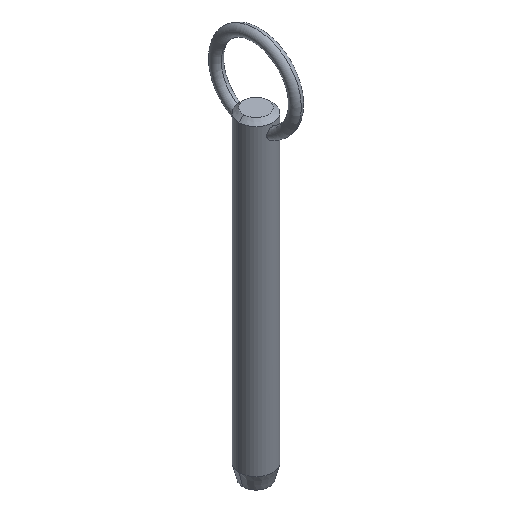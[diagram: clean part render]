
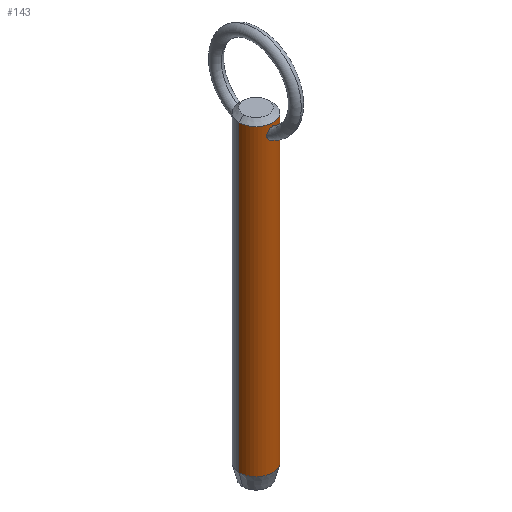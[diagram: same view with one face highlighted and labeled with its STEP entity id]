
A CAD part, isometric view. The second image highlights one B-rep face of the part: STEP entity #143.
In plain terms, the highlighted cylindrical face has radius 4.76 mm (diameter 9.52 mm), a partial arc.
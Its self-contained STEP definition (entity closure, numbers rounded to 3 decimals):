
#7 = EDGE_CURVE ( 'NONE', #315, #108, #97, .T. ) ;
#10 = CARTESIAN_POINT ( 'NONE',  ( 4.76, 0., -8.7 ) ) ;
#14 = CARTESIAN_POINT ( 'NONE',  ( -0.103, -4.76, 75.348 ) ) ;
#16 = CARTESIAN_POINT ( 'NONE',  ( 1.503, -4.517, 73.54 ) ) ;
#17 = CARTESIAN_POINT ( 'NONE',  ( 1.404, -4.548, 74.153 ) ) ;
#18 = CARTESIAN_POINT ( 'NONE',  ( 0.208, -4.757, 72.036 ) ) ;
#19 = CYLINDRICAL_SURFACE ( 'NONE', #167, 4.76 ) ;
#20 = CARTESIAN_POINT ( 'NONE',  ( 0., -4.76, 75.348 ) ) ;
#23 = DIRECTION ( 'NONE',  ( 0., 0., -1. ) ) ;
#40 = VERTEX_POINT ( 'NONE', #377 ) ;
#43 = VERTEX_POINT ( 'NONE', #10 ) ;
#50 = CARTESIAN_POINT ( 'NONE',  ( -0.793, -4.694, 72.239 ) ) ;
#53 = CARTESIAN_POINT ( 'NONE',  ( 1.178, -4.613, 72.576 ) ) ;
#56 = CARTESIAN_POINT ( 'NONE',  ( 1.434, -4.539, 74.054 ) ) ;
#57 = CARTESIAN_POINT ( 'NONE',  ( -1.247, -4.596, 72.652 ) ) ;
#59 = ORIENTED_EDGE ( 'NONE', *, *, #511, .T. ) ;
#89 = CARTESIAN_POINT ( 'NONE',  ( -0.416, -4.746, 72.067 ) ) ;
#91 = ORIENTED_EDGE ( 'NONE', *, *, #483, .T. ) ;
#94 = CARTESIAN_POINT ( 'NONE',  ( 0.104, -4.76, 75.348 ) ) ;
#95 = CARTESIAN_POINT ( 'NONE',  ( 0.209, -4.756, 75.334 ) ) ;
#97 = LINE ( 'NONE', #374, #399 ) ;
#100 = CARTESIAN_POINT ( 'NONE',  ( 1.293, -4.582, 74.442 ) ) ;
#108 = VERTEX_POINT ( 'NONE', #216 ) ;
#114 = B_SPLINE_CURVE_WITH_KNOTS ( 'NONE', 3,
 ( #459, #94, #95, #378, #376, #215, #412, #506, #501, #258, #100, #17, #56, #417, #256, #16, #212, #210, #220, #457, #186, #461, #53, #508, #261, #342, #498, #18, #345, #371 ),
 .UNSPECIFIED., .F., .F.,
 ( 4, 2, 2, 2, 2, 2, 2, 2, 2, 2, 2, 2, 2, 2, 4 ),
 ( 0.004, 0.005, 0.005, 0.005, 0.006, 0.006, 0.007, 0.007, 0.007, 0.007, 0.008, 0.008, 0.009, 0.009, 0.009 ),
 .UNSPECIFIED. ) ;
#131 = DIRECTION ( 'NONE',  ( 0., 0., 1. ) ) ;
#137 = CARTESIAN_POINT ( 'NONE',  ( -0.932, -4.67, 74.945 ) ) ;
#139 = CARTESIAN_POINT ( 'NONE',  ( -1.487, -4.522, 73.853 ) ) ;
#140 = CARTESIAN_POINT ( 'NONE',  ( -1.19, -4.611, 74.624 ) ) ;
#143 = ADVANCED_FACE ( 'NONE', ( #329, #224 ), #19, .T. ) ;
#146 = ORIENTED_EDGE ( 'NONE', *, *, #424, .T. ) ;
#164 = CARTESIAN_POINT ( 'NONE',  ( 0., 0., -8.7 ) ) ;
#165 = CARTESIAN_POINT ( 'NONE',  ( 4.76, 0., 71.1 ) ) ;
#167 = AXIS2_PLACEMENT_3D ( 'NONE', #310, #23, #472 ) ;
#177 = CARTESIAN_POINT ( 'NONE',  ( 0., 0., 76.15 ) ) ;
#179 = CARTESIAN_POINT ( 'NONE',  ( -1.353, -4.564, 72.835 ) ) ;
#181 = CARTESIAN_POINT ( 'NONE',  ( -0.208, -4.757, 75.334 ) ) ;
#185 = VERTEX_POINT ( 'NONE', #516 ) ;
#186 = CARTESIAN_POINT ( 'NONE',  ( 1.344, -4.567, 72.839 ) ) ;
#194 = B_SPLINE_CURVE_WITH_KNOTS ( 'NONE', 3,
 ( #283, #331, #89, #369, #50, #298, #407, #57, #179, #344, #219, #139, #297, #414, #140, #137, #409, #295, #458, #181, #14, #292 ),
 .UNSPECIFIED., .F., .F.,
 ( 4, 2, 2, 2, 2, 2, 2, 2, 2, 2, 4 ),
 ( 0.009, 0.01, 0.01, 0.011, 0.011, 0.012, 0.012, 0.013, 0.014, 0.014, 0.014 ),
 .UNSPECIFIED. ) ;
#206 = DIRECTION ( 'NONE',  ( 0., 0., -1. ) ) ;
#207 = DIRECTION ( 'NONE',  ( -1., 0., 0. ) ) ;
#210 = CARTESIAN_POINT ( 'NONE',  ( 1.473, -4.526, 73.231 ) ) ;
#212 = CARTESIAN_POINT ( 'NONE',  ( 1.499, -4.518, 73.437 ) ) ;
#213 = CIRCLE ( 'NONE', #218, 4.76 ) ;
#215 = CARTESIAN_POINT ( 'NONE',  ( 0.687, -4.711, 75.135 ) ) ;
#216 = CARTESIAN_POINT ( 'NONE',  ( -4.76, 0., -8.7 ) ) ;
#218 = AXIS2_PLACEMENT_3D ( 'NONE', #177, #255, #463 ) ;
#219 = CARTESIAN_POINT ( 'NONE',  ( -1.508, -4.515, 73.437 ) ) ;
#220 = CARTESIAN_POINT ( 'NONE',  ( 1.45, -4.534, 73.128 ) ) ;
#224 = FACE_BOUND ( 'NONE', #340, .T. ) ;
#255 = DIRECTION ( 'NONE',  ( 0., 0., -1. ) ) ;
#256 = CARTESIAN_POINT ( 'NONE',  ( 1.492, -4.52, 73.748 ) ) ;
#258 = CARTESIAN_POINT ( 'NONE',  ( 1.19, -4.611, 74.624 ) ) ;
#261 = CARTESIAN_POINT ( 'NONE',  ( 0.797, -4.697, 72.229 ) ) ;
#283 = CARTESIAN_POINT ( 'NONE',  ( 0., -4.76, 72.026 ) ) ;
#290 = VERTEX_POINT ( 'NONE', #20 ) ;
#292 = CARTESIAN_POINT ( 'NONE',  ( 0., -4.76, 75.348 ) ) ;
#295 = CARTESIAN_POINT ( 'NONE',  ( -0.504, -4.734, 75.238 ) ) ;
#297 = CARTESIAN_POINT ( 'NONE',  ( -1.441, -4.537, 74.057 ) ) ;
#298 = CARTESIAN_POINT ( 'NONE',  ( -0.961, -4.663, 72.357 ) ) ;
#305 = ORIENTED_EDGE ( 'NONE', *, *, #7, .T. ) ;
#310 = CARTESIAN_POINT ( 'NONE',  ( 0., 0., 71.1 ) ) ;
#315 = VERTEX_POINT ( 'NONE', #385 ) ;
#317 = ORIENTED_EDGE ( 'NONE', *, *, #456, .T. ) ;
#321 = LINE ( 'NONE', #165, #434 ) ;
#329 = FACE_OUTER_BOUND ( 'NONE', #382, .T. ) ;
#331 = CARTESIAN_POINT ( 'NONE',  ( -0.21, -4.76, 72.026 ) ) ;
#334 = DIRECTION ( 'NONE',  ( 0., 0., -1. ) ) ;
#340 = EDGE_LOOP ( 'NONE', ( #91, #317 ) ) ;
#342 = CARTESIAN_POINT ( 'NONE',  ( 0.512, -4.733, 72.108 ) ) ;
#344 = CARTESIAN_POINT ( 'NONE',  ( -1.483, -4.524, 73.226 ) ) ;
#345 = CARTESIAN_POINT ( 'NONE',  ( 0.105, -4.76, 72.026 ) ) ;
#369 = CARTESIAN_POINT ( 'NONE',  ( -0.703, -4.709, 72.189 ) ) ;
#371 = CARTESIAN_POINT ( 'NONE',  ( 0., -4.76, 72.026 ) ) ;
#374 = CARTESIAN_POINT ( 'NONE',  ( -4.76, 0., 71.1 ) ) ;
#376 = CARTESIAN_POINT ( 'NONE',  ( 0.506, -4.734, 75.237 ) ) ;
#377 = CARTESIAN_POINT ( 'NONE',  ( 0., -4.76, 72.026 ) ) ;
#378 = CARTESIAN_POINT ( 'NONE',  ( 0.409, -4.743, 75.278 ) ) ;
#382 = EDGE_LOOP ( 'NONE', ( #481, #59, #305, #146 ) ) ;
#385 = CARTESIAN_POINT ( 'NONE',  ( -4.76, 0., 76.15 ) ) ;
#399 = VECTOR ( 'NONE', #334, 1000. ) ;
#407 = CARTESIAN_POINT ( 'NONE',  ( -1.039, -4.646, 72.426 ) ) ;
#409 = CARTESIAN_POINT ( 'NONE',  ( -0.777, -4.7, 75.085 ) ) ;
#412 = CARTESIAN_POINT ( 'NONE',  ( 0.77, -4.698, 75.075 ) ) ;
#414 = CARTESIAN_POINT ( 'NONE',  ( -1.292, -4.582, 74.445 ) ) ;
#417 = CARTESIAN_POINT ( 'NONE',  ( 1.478, -4.525, 73.852 ) ) ;
#424 = EDGE_CURVE ( 'NONE', #108, #43, #435, .T. ) ;
#434 = VECTOR ( 'NONE', #206, 1000. ) ;
#435 = CIRCLE ( 'NONE', #517, 4.76 ) ;
#452 = EDGE_CURVE ( 'NONE', #185, #43, #321, .T. ) ;
#456 = EDGE_CURVE ( 'NONE', #40, #290, #194, .T. ) ;
#457 = CARTESIAN_POINT ( 'NONE',  ( 1.385, -4.554, 72.932 ) ) ;
#458 = CARTESIAN_POINT ( 'NONE',  ( -0.409, -4.743, 75.278 ) ) ;
#459 = CARTESIAN_POINT ( 'NONE',  ( 0., -4.76, 75.348 ) ) ;
#461 = CARTESIAN_POINT ( 'NONE',  ( 1.24, -4.596, 72.66 ) ) ;
#463 = DIRECTION ( 'NONE',  ( 1., 0., 0. ) ) ;
#472 = DIRECTION ( 'NONE',  ( -1., 0., 0. ) ) ;
#481 = ORIENTED_EDGE ( 'NONE', *, *, #452, .F. ) ;
#483 = EDGE_CURVE ( 'NONE', #290, #40, #114, .T. ) ;
#498 = CARTESIAN_POINT ( 'NONE',  ( 0.411, -4.743, 72.077 ) ) ;
#501 = CARTESIAN_POINT ( 'NONE',  ( 0.997, -4.655, 74.864 ) ) ;
#506 = CARTESIAN_POINT ( 'NONE',  ( 0.925, -4.67, 74.939 ) ) ;
#508 = CARTESIAN_POINT ( 'NONE',  ( 0.97, -4.662, 72.35 ) ) ;
#511 = EDGE_CURVE ( 'NONE', #185, #315, #213, .T. ) ;
#516 = CARTESIAN_POINT ( 'NONE',  ( 4.76, 0., 76.15 ) ) ;
#517 = AXIS2_PLACEMENT_3D ( 'NONE', #164, #131, #207 ) ;
